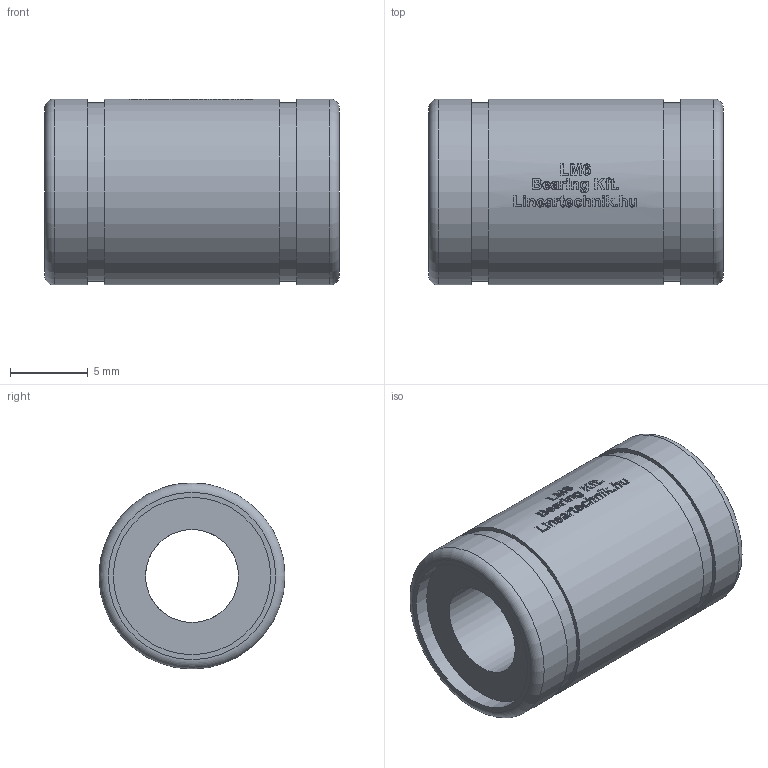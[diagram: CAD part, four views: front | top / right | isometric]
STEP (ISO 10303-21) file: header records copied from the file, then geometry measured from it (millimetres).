
FILE_DESCRIPTION(/* description */ ('Huosing for flange nuts'),/* implementation_level */ '2;1');
FILE_NAME(/* name */ 'LM6',/* time_stamp */ '2019-05-07T14:08:51+02:00',/* author */ ('VĂ©gh MĂˇtĂ©'),/* organization */ ('Bearing Kft'),/* preprocessor_version */ 'ST-DEVELOPER v16.7',/* originating_system */ 'DEX',/* authorisation */ $);
FILE_SCHEMA (('AUTOMOTIVE_DESIGN {1 0 10303 214 3 1 1}'));
Length unit declared in the file: millimetre
Products named in the file (1): LM6
Bounding box: 19 x 12 x 12 mm (x, y, z)
Volume: 1484.8 mm3; surface area: 1291 mm2
Topology: 1 solids, 1 shells, 292 faces, 730 edges, 486 vertices
Faces by surface type: plane 152, bspline 88, cylinder 50, torus 2
Full cylindrical faces by diameter (mm): 6 x1, 10.15 x2, 11.5 x2, 12 x3
Entity records: 12433 total; most frequent: CARTESIAN_POINT 5948, ORIENTED_EDGE 1426, DIRECTION 1088, EDGE_CURVE 713, VERTEX_POINT 482, LINE 390, VECTOR 390, EDGE_LOOP 353
